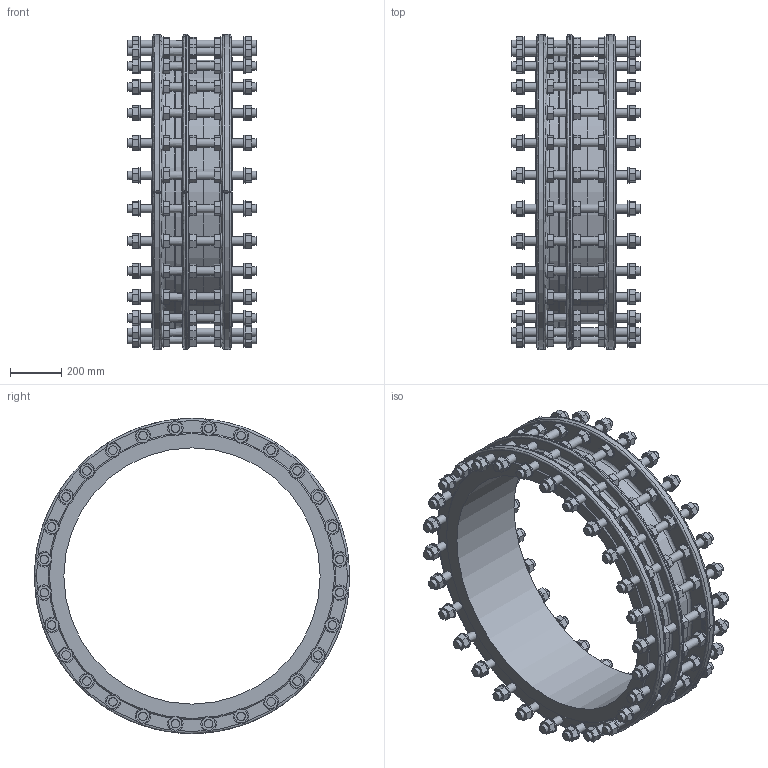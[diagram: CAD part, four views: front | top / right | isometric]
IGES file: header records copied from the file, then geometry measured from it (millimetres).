
Start section: SolidWorks IGES file using analytic representation for surfaces
Global section: file name: \\avksan2\techshare\PBM outline export from Enovia\O_265_911_DN1000_0XXXXX01_L=315_REV01.igs; native system: SolidWorks 2022; preprocessor: SolidWorks 2022; author: pbm; date: 241212.093449; units: millimetre
Bounding box: 500 x 1229.97 x 1230 mm (x, y, z)
Surface area: 5644658 mm2 (no closed solid volume)
Topology: 0 solids, 0 shells, 1736 faces, 7956 edges, 7631 vertices
Faces by surface type: bspline 1403, revolution 333
